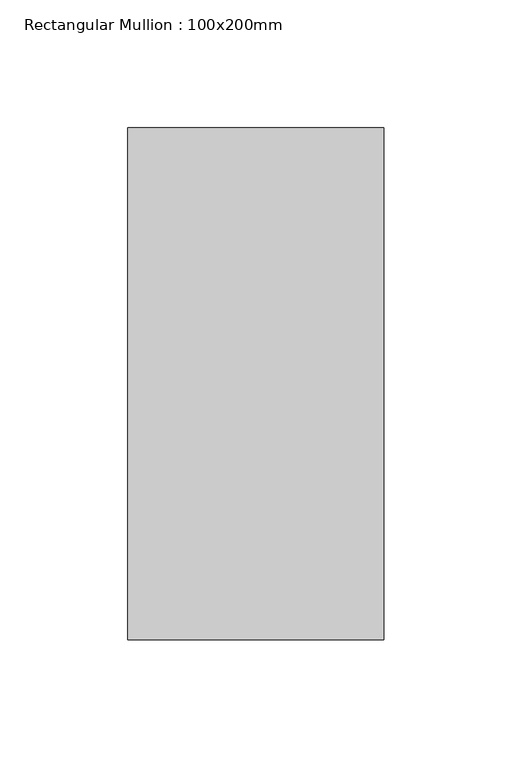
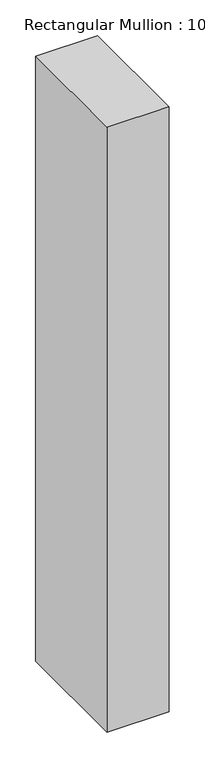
"""IFC4 building model written with IfcOpenShell, lengths in millimetres: member geometry, Rectangular Mullion : 100x200mm."""

from ifc_helpers import new_model, si_unit, frame, origin, place, context, project, spatial, polyline, outline, extrude, source, transform, mapped, element, save


def rectangular_mullion_100x200mm_22465b95(model_context):
    return source(origin(), model_context, "Body", "SweptSolid", [
        extrude(outline(polyline([(0.0, 100.0), (0.0, -100.0), (-100.0, -100.0), (-100.0, 100.0), (0.0, 100.0)])), frame((0.0, 0.0, -1031.4506082), z_axis=(0.0, 0.0, 1.0), x_axis=(1.0, 0.0, 0.0)), (0.0, 0.0, 1.0), 1031.4506082),
    ])


if __name__ == "__main__":
    model = new_model("IFC4")
    model_context = context("Model", 3, world=origin())
    ifc_project = project(units=[si_unit("LENGTHUNIT", "METRE", prefix="MILLI")], contexts=[model_context])
    site = spatial("IfcSite", under=ifc_project)
    building = spatial("IfcBuilding", under=site)
    placement = place(None, origin())
    rectangular_mullion_100x200mm_shape = rectangular_mullion_100x200mm_22465b95(model_context)
    element("IfcMember", 1, ObjectType="Rectangular Mullion : 100x200mm", at=placement, inside=building, context=model_context, shape_type="MappedRepresentation", body=[
        mapped(rectangular_mullion_100x200mm_shape, transform((0.0, 0.0, 0.0), x_axis=(1.0, 0.0, 0.0), y_axis=(0.0, 1.0, 0.0), z_axis=(0.0, 0.0, 1.0))),
    ])
    save(model, "model.ifc")
